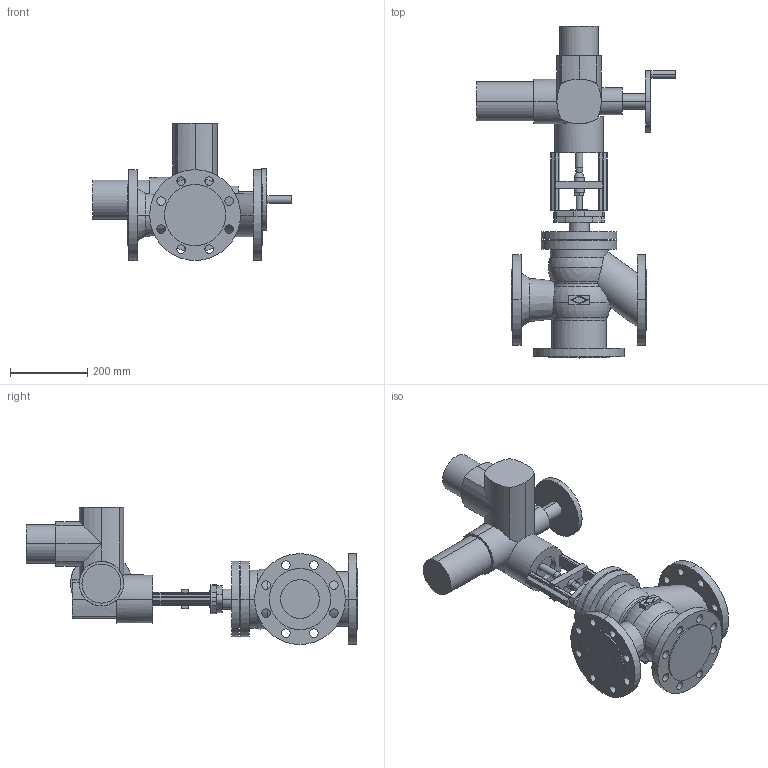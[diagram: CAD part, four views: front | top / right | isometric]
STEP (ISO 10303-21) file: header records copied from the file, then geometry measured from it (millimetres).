
FILE_DESCRIPTION(('OneSpaceDesigner STEP Export'),'2;1');
FILE_NAME('c000003170.stp','2007-01-24T10:36:49',(''),(''),'OneSpace Designer STEP processor for AP214 (Solid Model)','OneSpace Designer 14.00B 27-May-2006 (C) CoCreate Software GmbH','');
FILE_SCHEMA(('AUTOMOTIVE_DESIGN { 1 0 10303 214 1 1 1 1 }'));
Length unit declared in the file: millimetre
Products named in the file (2): 1; 2
Bounding box: 514 x 858.5 x 354.5 mm (x, y, z)
Volume: 19087769.8 mm3; surface area: 1025480.8 mm2
Topology: 2 solids, 2 shells, 305 faces, 797 edges, 509 vertices
Faces by surface type: cylinder 160, plane 123, torus 10, cone 8, sphere 4
Entity records: 8862 total; most frequent: CARTESIAN_POINT 1946, ORIENTED_EDGE 1586, DIRECTION 1246, EDGE_CURVE 793, VERTEX_POINT 509, AXIS2_PLACEMENT_3D 429, VECTOR 388, LINE 388
